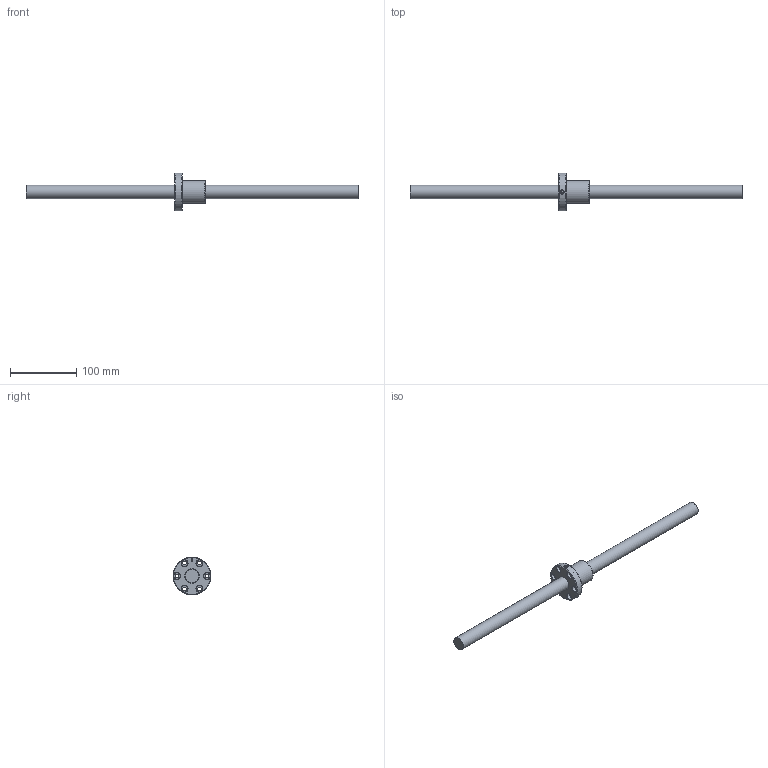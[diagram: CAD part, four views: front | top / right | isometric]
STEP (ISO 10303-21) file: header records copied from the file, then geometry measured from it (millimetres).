
FILE_DESCRIPTION (( 'STEP AP203' ), '1' );
FILE_NAME ('SFI02004N-4.step', '2024-05-16T02:27:40', ( '' ), ( '' ), 'SwSTEP 2.0', 'SolidWorks 2022', '' );
FILE_SCHEMA (( 'CONFIG_CONTROL_DESIGN' ));
Length unit declared in the file: millimetre
Products named in the file (1): SFI02004N-4
Bounding box: 500 x 57 x 57 mm (x, y, z)
Volume: 196503.6 mm3; surface area: 46522.6 mm2
Topology: 2 solids, 2 shells, 57 faces, 141 edges, 88 vertices
Faces by surface type: cylinder 24, cone 13, plane 12, bspline 5, torus 3
Full cylindrical faces by diameter (mm): 4 x1, 5 x6, 5.5 x6, 9.5 x6, 20 x1, 21.6 x1, 34 x1, 57 x1
Entity records: 3080 total; most frequent: CARTESIAN_POINT 2029, DIRECTION 206, ORIENTED_EDGE 148, EDGE_LOOP 102, AXIS2_PLACEMENT_3D 101, EDGE_CURVE 74, FACE_OUTER_BOUND 72, VERTEX_POINT 64
